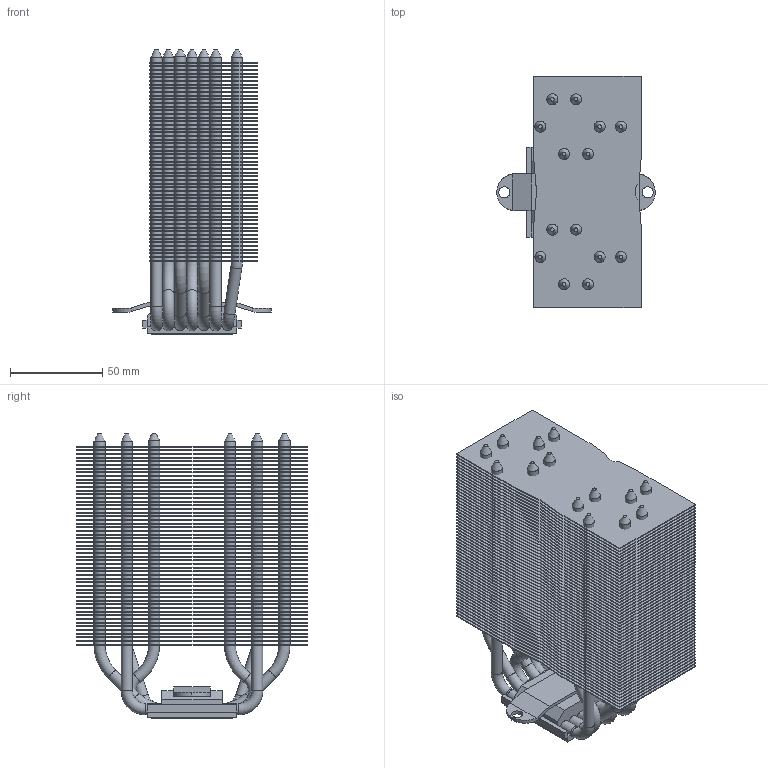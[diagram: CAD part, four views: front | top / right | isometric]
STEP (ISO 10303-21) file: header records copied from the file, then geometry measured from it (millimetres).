
FILE_DESCRIPTION (( 'STEP AP214' ), '1' );
FILE_NAME ('U12A.STEP', '2025-11-25T19:26:21', ( '' ), ( '' ), 'SwSTEP 2.0', 'SolidWorks 2024', '' );
FILE_SCHEMA (( 'AUTOMOTIVE_DESIGN' ));
Length unit declared in the file: millimetre
Products named in the file (1): U12A
Bounding box: 85.6 x 125 x 153.88 mm (x, y, z)
Volume: 290882.6 mm3; surface area: 852183.4 mm2
Topology: 56 solids, 56 shells, 886 faces, 2241 edges, 1468 vertices
Faces by surface type: plane 739, cylinder 105, torus 28, cone 14
Full cylindrical faces by diameter (mm): 6 x26
Entity records: 26195 total; most frequent: CARTESIAN_POINT 4644, ORIENTED_EDGE 4290, DIRECTION 4123, EDGE_CURVE 2145, LINE 1893, VECTOR 1893, VERTEX_POINT 1440, AXIS2_PLACEMENT_3D 1115
